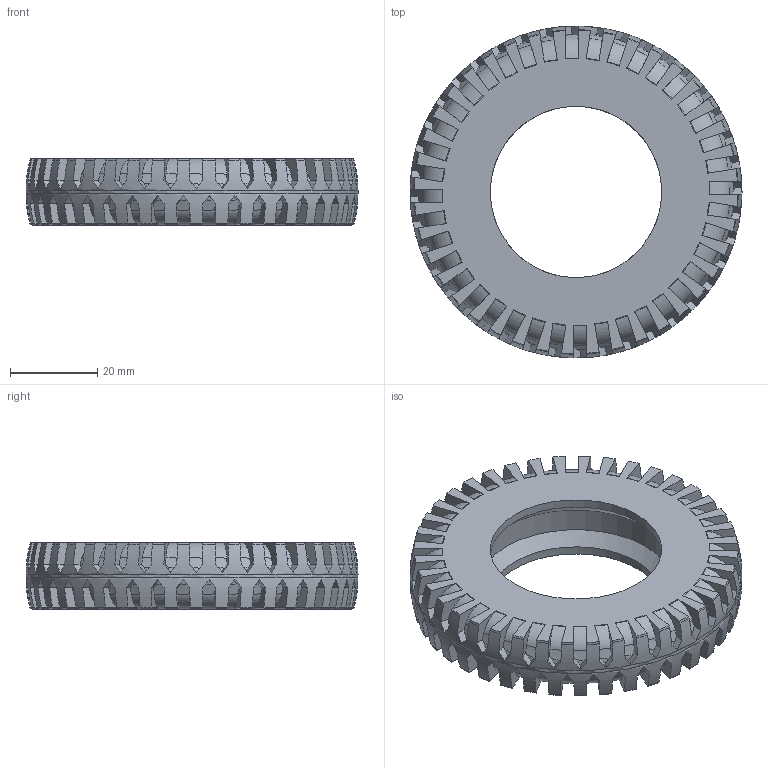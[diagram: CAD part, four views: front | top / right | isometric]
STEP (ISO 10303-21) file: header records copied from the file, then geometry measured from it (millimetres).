
FILE_DESCRIPTION(/* description */ (''),/* implementation_level */ '2;1');
FILE_NAME(/* name */ 'C:/Users/Alfahobbies/Desktop/RC Hobbies/Jeep/Military_Tire1.55_NDT_Pointed_Tread_10th_Scale.step',/* time_stamp */ '2017-07-03T11:57:26-04:00',/* author */ (''),/* organization */ (''),/* preprocessor_version */ 'ST-DEVELOPER v16.13',/* originating_system */ 'Autodesk Translation Framework v6.1.1.50',/* authorisation */ '');
FILE_SCHEMA (('AUTOMOTIVE_DESIGN { 1 0 10303 214 3 1 1 }'));
Length unit declared in the file: millimetre
Products named in the file (2): Military_Tire1.55_NDT_Pointed_Tread_True_Scale v5; SolidTube v3
Assembly tree (1 placements, depth 2):
  Military_Tire1.55_NDT_Pointed_Tread_True_Scale v5
    SolidTube v3
Bounding box: 76.2 x 76.2 x 15.2 mm (x, y, z)
Volume: 42156.4 mm3; surface area: 14499.1 mm2
Topology: 1 solids, 1 shells, 850 faces, 2543 edges, 1695 vertices
Faces by surface type: plane 482, bspline 242, cone 122, cylinder 4
Full cylindrical faces by diameter (mm): 39.37 x2, 45 x1, 76.2 x1
Entity records: 37942 total; most frequent: CARTESIAN_POINT 15780, ORIENTED_EDGE 5068, DIRECTION 4370, EDGE_CURVE 2534, AXIS2_PLACEMENT_3D 1705, VERTEX_POINT 1692, LINE 960, VECTOR 960
